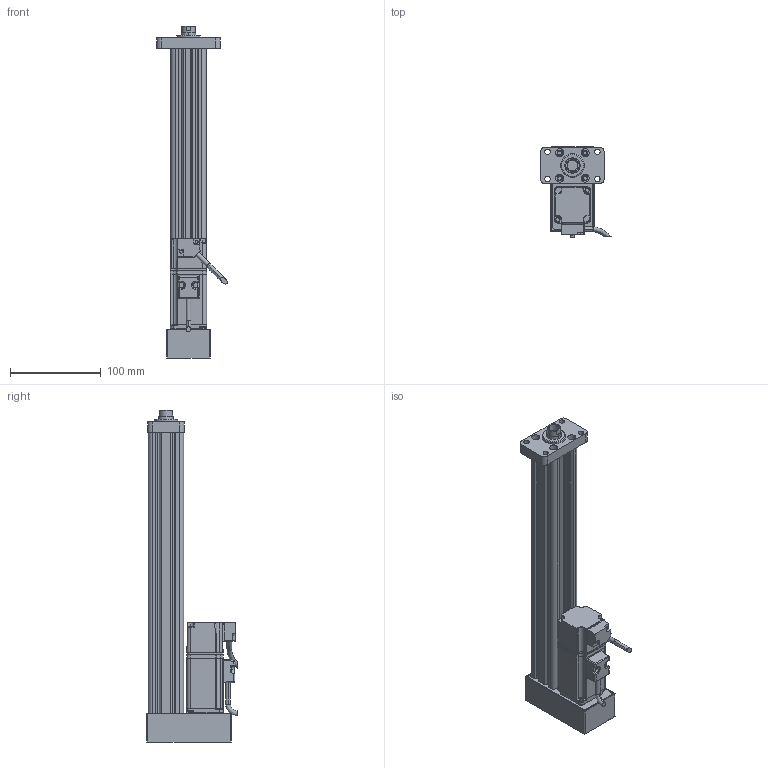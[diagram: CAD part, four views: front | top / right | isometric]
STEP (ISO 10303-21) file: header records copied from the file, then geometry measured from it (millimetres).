
FILE_DESCRIPTION (( 'STEP AP214' ), '1' );
FILE_NAME ('039-S250-D02-B-M3-C2-2.STEP', '2021-02-25T08:43:43', ( '' ), ( '' ), 'SwSTEP 2.0', 'SolidWorks 2018', '' );
FILE_SCHEMA (( 'AUTOMOTIVE_DESIGN' ));
Length unit declared in the file: millimetre
Products named in the file (7): CMC039-DT; CMC039-GT; CMC039-FL; CMC039-LJB; ECMA-CX0401ES-40框號系列機種-100W低慣量系列; 039-S250-D02-B-M3-C2-2; CMC039-XT
Assembly tree (6 placements, depth 2):
  039-S250-D02-B-M3-C2-2
    CMC039-GT
    CMC039-LJB
    CMC039-XT
    CMC039-FL
    CMC039-DT
    ECMA-CX0401ES-40框號系列機種-100W低慣量系列
Bounding box: 77.84 x 99.39 x 366 mm (x, y, z)
Volume: 503005.6 mm3; surface area: 183377.7 mm2
Topology: 6 solids, 14 shells, 612 faces, 1592 edges, 989 vertices
Faces by surface type: cylinder 250, plane 239, bspline 84, cone 39
Entity records: 24722 total; most frequent: CARTESIAN_POINT 10684, ORIENTED_EDGE 3118, DIRECTION 2445, EDGE_CURVE 1559, VERTEX_POINT 989, AXIS2_PLACEMENT_3D 837, LINE 771, VECTOR 771
